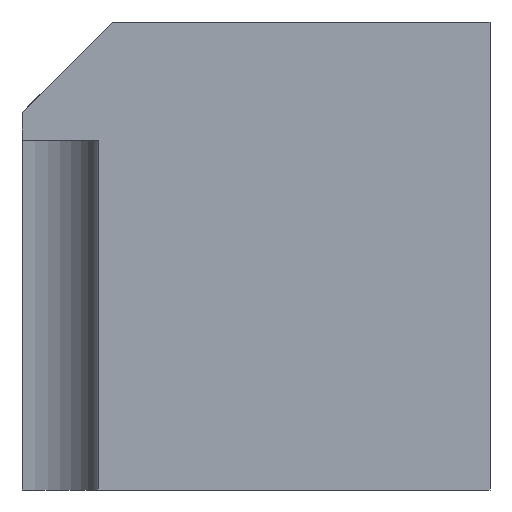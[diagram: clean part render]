
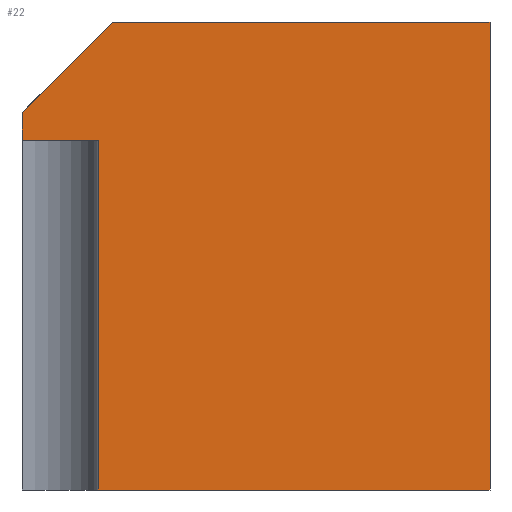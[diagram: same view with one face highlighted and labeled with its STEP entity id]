
A CAD part, front view. The second image highlights one B-rep face of the part: STEP entity #22.
In plain terms, the highlighted planar face has unit normal (0, -1, 0).
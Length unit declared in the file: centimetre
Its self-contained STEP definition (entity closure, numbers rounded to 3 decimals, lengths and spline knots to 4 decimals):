
#2 = VERTEX_POINT ( 'NONE', #199 ) ;
#6 = EDGE_LOOP ( 'NONE', ( #697, #462, #171, #700, #108, #121, #111 ) ) ;
#7 = EDGE_CURVE ( 'NONE', #400, #2, #36, .T. ) ;
#17 = DIRECTION ( 'NONE',  ( -0.707, 0., -0.707 ) ) ;
#22 = ADVANCED_FACE ( 'NONE', ( #96 ), #421, .F. ) ;
#29 = VERTEX_POINT ( 'NONE', #611 ) ;
#36 = LINE ( 'NONE', #492, #104 ) ;
#42 = DIRECTION ( 'NONE',  ( 1., 0., 0. ) ) ;
#80 = EDGE_CURVE ( 'NONE', #401, #400, #203, .T. ) ;
#82 = CARTESIAN_POINT ( 'NONE',  ( 163.4104, 0., 0. ) ) ;
#86 = DIRECTION ( 'NONE',  ( 0., 0., -1. ) ) ;
#90 = AXIS2_PLACEMENT_3D ( 'NONE', #325, #182, #483 ) ;
#96 = FACE_OUTER_BOUND ( 'NONE', #6, .T. ) ;
#97 = CARTESIAN_POINT ( 'NONE',  ( 0., 0., 1000. ) ) ;
#104 = VECTOR ( 'NONE', #677, 100. ) ;
#105 = EDGE_CURVE ( 'NONE', #29, #505, #378, .T. ) ;
#106 = CARTESIAN_POINT ( 'NONE',  ( 0., 0., 1000. ) ) ;
#108 = ORIENTED_EDGE ( 'NONE', *, *, #80, .F. ) ;
#111 = ORIENTED_EDGE ( 'NONE', *, *, #476, .T. ) ;
#121 = ORIENTED_EDGE ( 'NONE', *, *, #278, .T. ) ;
#129 = CARTESIAN_POINT ( 'NONE',  ( 0., 0., 806.6985 ) ) ;
#143 = DIRECTION ( 'NONE',  ( 0., 0., -1. ) ) ;
#171 = ORIENTED_EDGE ( 'NONE', *, *, #626, .T. ) ;
#182 = DIRECTION ( 'NONE',  ( 0., 1., 0. ) ) ;
#185 = VECTOR ( 'NONE', #713, 100. ) ;
#199 = CARTESIAN_POINT ( 'NONE',  ( 1000., 0., 0. ) ) ;
#200 = CARTESIAN_POINT ( 'NONE',  ( 163.4104, 0., 747.1697 ) ) ;
#203 = LINE ( 'NONE', #97, #185 ) ;
#234 = VERTEX_POINT ( 'NONE', #129 ) ;
#278 = EDGE_CURVE ( 'NONE', #401, #234, #303, .T. ) ;
#303 = LINE ( 'NONE', #526, #581 ) ;
#325 = CARTESIAN_POINT ( 'NONE',  ( 0., 0., 1000. ) ) ;
#328 = CARTESIAN_POINT ( 'NONE',  ( 1000., 0., 1000. ) ) ;
#338 = DIRECTION ( 'NONE',  ( -1., 0., 0. ) ) ;
#339 = VERTEX_POINT ( 'NONE', #624 ) ;
#378 = LINE ( 'NONE', #200, #572 ) ;
#389 = LINE ( 'NONE', #600, #420 ) ;
#400 = VERTEX_POINT ( 'NONE', #328 ) ;
#401 = VERTEX_POINT ( 'NONE', #504 ) ;
#420 = VECTOR ( 'NONE', #42, 100. ) ;
#421 = PLANE ( 'NONE',  #90 ) ;
#430 = VECTOR ( 'NONE', #338, 100. ) ;
#444 = CARTESIAN_POINT ( 'NONE',  ( 0., 0., 747.1697 ) ) ;
#462 = ORIENTED_EDGE ( 'NONE', *, *, #105, .T. ) ;
#476 = EDGE_CURVE ( 'NONE', #234, #339, #616, .T. ) ;
#483 = DIRECTION ( 'NONE',  ( 0., 0., 1. ) ) ;
#492 = CARTESIAN_POINT ( 'NONE',  ( 1000., 0., 1000. ) ) ;
#504 = CARTESIAN_POINT ( 'NONE',  ( 193.3015, 0., 1000. ) ) ;
#505 = VERTEX_POINT ( 'NONE', #82 ) ;
#526 = CARTESIAN_POINT ( 'NONE',  ( 193.3015, 0., 1000. ) ) ;
#572 = VECTOR ( 'NONE', #86, 100. ) ;
#581 = VECTOR ( 'NONE', #17, 100. ) ;
#589 = EDGE_CURVE ( 'NONE', #29, #339, #733, .T. ) ;
#600 = CARTESIAN_POINT ( 'NONE',  ( 0., 0., 0. ) ) ;
#611 = CARTESIAN_POINT ( 'NONE',  ( 163.4104, 0., 747.1697 ) ) ;
#616 = LINE ( 'NONE', #106, #732 ) ;
#624 = CARTESIAN_POINT ( 'NONE',  ( 0., 0., 747.1697 ) ) ;
#626 = EDGE_CURVE ( 'NONE', #505, #2, #389, .T. ) ;
#677 = DIRECTION ( 'NONE',  ( 0., 0., -1. ) ) ;
#697 = ORIENTED_EDGE ( 'NONE', *, *, #589, .F. ) ;
#700 = ORIENTED_EDGE ( 'NONE', *, *, #7, .F. ) ;
#713 = DIRECTION ( 'NONE',  ( 1., 0., 0. ) ) ;
#732 = VECTOR ( 'NONE', #143, 100. ) ;
#733 = LINE ( 'NONE', #444, #430 ) ;
